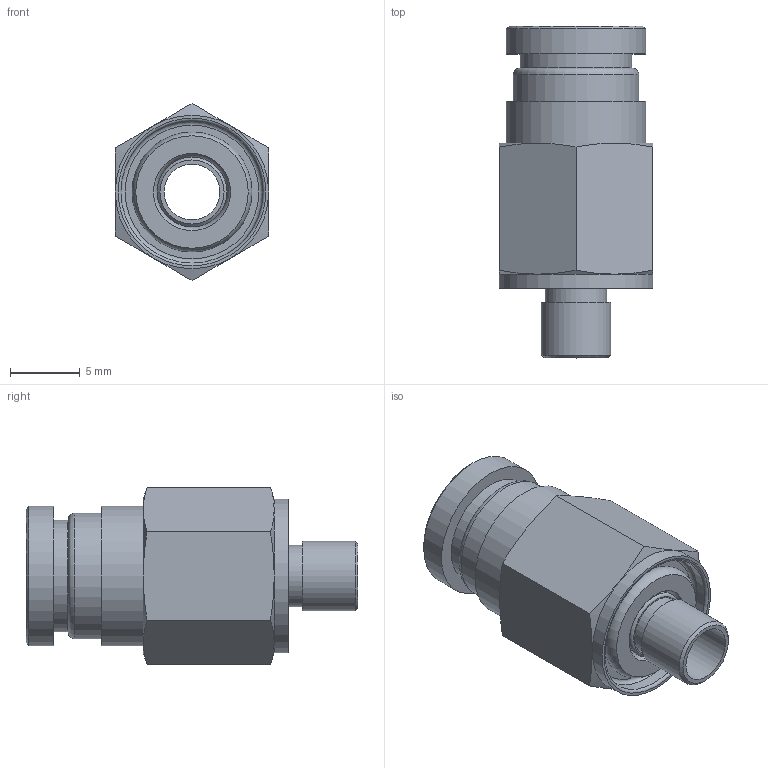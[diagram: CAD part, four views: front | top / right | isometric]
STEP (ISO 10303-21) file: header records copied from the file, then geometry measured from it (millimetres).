
FILE_DESCRIPTION(/* description */ (''),/* implementation_level */ '2;1');
FILE_NAME(/* name */ 'LXH18 0006 M5.stp',/* time_stamp */ '2026-04-20T19:18:54+02:00',/* author */ ('freju'),/* organization */ (''),/* preprocessor_version */ 'ST-DEVELOPER v20.1',/* originating_system */ 'Autodesk Inventor 2026',/* authorisation */ '');
FILE_SCHEMA (('AUTOMOTIVE_DESIGN { 1 0 10303 214 3 1 1 }'));
Length unit declared in the file: millimetre
Products named in the file (4): LXH18 0006 M5; LXH18 0006 M5_1; O-Ring; ISO 3601-1 - A 0050 G
Assembly tree (3 placements, depth 3):
  LXH18 0006 M5
    LXH18 0006 M5_1
    O-Ring
      ISO 3601-1 - A 0050 G
Bounding box: 11 x 23.8 x 12.7 mm (x, y, z)
Volume: 1220 mm3; surface area: 1500.8 mm2
Topology: 2 solids, 2 shells, 50 faces, 101 edges, 63 vertices
Faces by surface type: plane 18, cone 14, cylinder 11, torus 7
Full cylindrical faces by diameter (mm): 4 x1, 4.4 x1, 5 x2, 6 x1, 8 x1, 9 x1, 10 x2, 10.2 x1, 11 x1
Entity records: 1445 total; most frequent: CARTESIAN_POINT 269, DIRECTION 249, ORIENTED_EDGE 202, AXIS2_PLACEMENT_3D 115, EDGE_CURVE 101, VERTEX_POINT 63, EDGE_LOOP 62, CIRCLE 58
